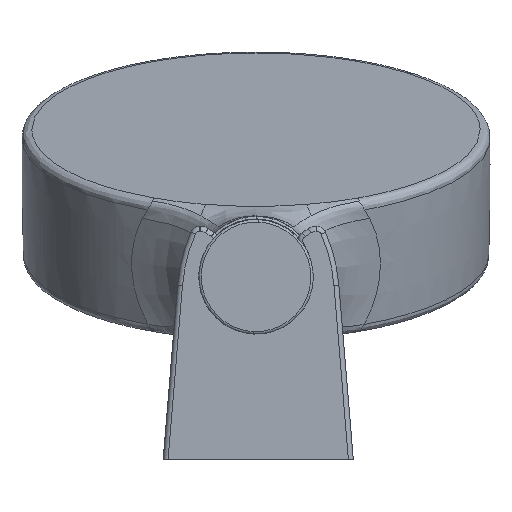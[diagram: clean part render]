
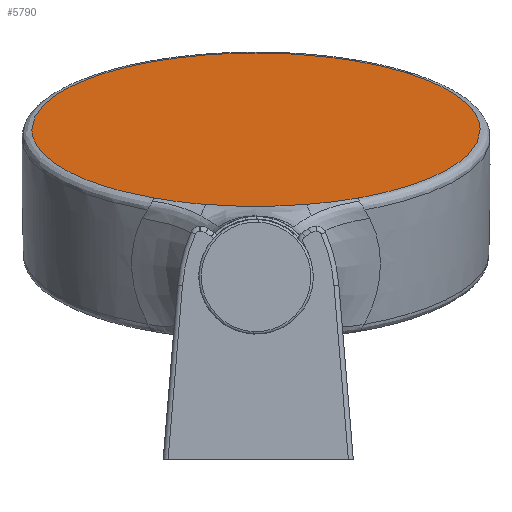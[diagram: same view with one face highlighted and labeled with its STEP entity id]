
A CAD part, front view. The second image highlights one B-rep face of the part: STEP entity #5790.
In plain terms, the highlighted planar face has unit normal (0, -0.342, 0.94).
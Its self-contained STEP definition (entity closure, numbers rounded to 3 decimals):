
#121 = B_SPLINE_CURVE_WITH_KNOTS ( 'NONE', 3,
 ( #4404, #8794, #8116, #1527, #7292, #2301 ),
 .UNSPECIFIED., .F., .F.,
 ( 4, 1, 1, 4 ),
 ( 0.75, 0.812, 0.875, 0.924 ),
 .UNSPECIFIED. ) ;
#306 = EDGE_CURVE ( 'NONE', #3258, #3849, #360, .T. ) ;
#317 = VERTEX_POINT ( 'NONE', #5326 ) ;
#360 = B_SPLINE_CURVE_WITH_KNOTS ( 'NONE', 3,
 ( #7375, #2413, #6011, #5255 ),
 .UNSPECIFIED., .F., .F.,
 ( 4, 4 ),
 ( 0., 1. ),
 .UNSPECIFIED. ) ;
#379 = CARTESIAN_POINT ( 'NONE',  ( -22.011, 160.346, 98.696 ) ) ;
#670 = CARTESIAN_POINT ( 'NONE',  ( -40.678, 159.979, 98.563 ) ) ;
#700 = CARTESIAN_POINT ( 'NONE',  ( -27.108, 159.524, 98.397 ) ) ;
#733 = CARTESIAN_POINT ( 'NONE',  ( -32.422, 159.247, 98.296 ) ) ;
#782 = CARTESIAN_POINT ( 'NONE',  ( 13.254, 207.598, 115.894 ) ) ;
#790 = CARTESIAN_POINT ( 'NONE',  ( -32.272, 159.247, 98.296 ) ) ;
#855 = CARTESIAN_POINT ( 'NONE',  ( -32.245, 244.757, 129.419 ) ) ;
#1253 = VERTEX_POINT ( 'NONE', #5741 ) ;
#1462 = CARTESIAN_POINT ( 'NONE',  ( -27.142, 159.52, 98.395 ) ) ;
#1479 = CARTESIAN_POINT ( 'NONE',  ( -14.38, 242.531, 128.609 ) ) ;
#1503 = DIRECTION ( 'NONE',  ( 0., 0.342, -0.94 ) ) ;
#1511 = VERTEX_POINT ( 'NONE', #855 ) ;
#1519 = CARTESIAN_POINT ( 'NONE',  ( -27.284, 159.505, 98.39 ) ) ;
#1527 = CARTESIAN_POINT ( 'NONE',  ( 1.472, 171.978, 102.93 ) ) ;
#1556 = ORIENTED_EDGE ( 'NONE', *, *, #306, .T. ) ;
#1744 = CARTESIAN_POINT ( 'NONE',  ( -18.307, 161.151, 98.989 ) ) ;
#1886 = EDGE_CURVE ( 'NONE', #1511, #3372, #6381, .T. ) ;
#2107 = CARTESIAN_POINT ( 'NONE',  ( -22.011, 160.346, 98.696 ) ) ;
#2141 = CARTESIAN_POINT ( 'NONE',  ( -27.122, 159.522, 98.396 ) ) ;
#2185 = CARTESIAN_POINT ( 'NONE',  ( -53.055, 163.983, 100.02 ) ) ;
#2231 = CARTESIAN_POINT ( 'NONE',  ( -32.599, 159.248, 98.296 ) ) ;
#2253 = EDGE_CURVE ( 'NONE', #7545, #317, #2480, .T. ) ;
#2281 = CARTESIAN_POINT ( 'NONE',  ( -65.963, 171.978, 102.93 ) ) ;
#2282 = CARTESIAN_POINT ( 'NONE',  ( 0.765, 233.022, 125.148 ) ) ;
#2301 = CARTESIAN_POINT ( 'NONE',  ( -11.435, 163.983, 100.02 ) ) ;
#2406 = CARTESIAN_POINT ( 'NONE',  ( -77.744, 202.002, 113.858 ) ) ;
#2413 = CARTESIAN_POINT ( 'NONE',  ( -49.699, 162.359, 99.429 ) ) ;
#2480 = B_SPLINE_CURVE_WITH_KNOTS ( 'NONE', 3,
 ( #3310, #1744, #6797, #7504 ),
 .UNSPECIFIED., .F., .F.,
 ( 4, 4 ),
 ( 0., 1. ),
 .UNSPECIFIED. ) ;
#2523 = AXIS2_PLACEMENT_3D ( 'NONE', #7961, #1503, #5088 ) ;
#2864 = CARTESIAN_POINT ( 'NONE',  ( -27.474, 159.486, 98.383 ) ) ;
#2915 = CARTESIAN_POINT ( 'NONE',  ( -57.239, 166.008, 100.757 ) ) ;
#2958 = CARTESIAN_POINT ( 'NONE',  ( -35.105, 159.327, 98.325 ) ) ;
#3093 = CARTESIAN_POINT ( 'NONE',  ( -50.11, 242.531, 128.609 ) ) ;
#3100 = B_SPLINE_CURVE_WITH_KNOTS ( 'NONE', 3,
 ( #2406, #6718, #3190, #3850, #3093, #8154, #8875 ),
 .UNSPECIFIED., .F., .F.,
 ( 4, 1, 1, 1, 4 ),
 ( 0.25, 0.313, 0.375, 0.437, 0.5 ),
 .UNSPECIFIED. ) ;
#3190 = CARTESIAN_POINT ( 'NONE',  ( -75.375, 218.79, 119.968 ) ) ;
#3258 = VERTEX_POINT ( 'NONE', #3442 ) ;
#3310 = CARTESIAN_POINT ( 'NONE',  ( -22.011, 160.346, 98.696 ) ) ;
#3372 = VERTEX_POINT ( 'NONE', #4079 ) ;
#3442 = CARTESIAN_POINT ( 'NONE',  ( -53.055, 163.983, 100.02 ) ) ;
#3575 = CARTESIAN_POINT ( 'NONE',  ( -32.953, 159.252, 98.298 ) ) ;
#3611 = CARTESIAN_POINT ( 'NONE',  ( -38.048, 159.567, 98.413 ) ) ;
#3639 = CARTESIAN_POINT ( 'NONE',  ( -32.346, 159.247, 98.296 ) ) ;
#3655 = ORIENTED_EDGE ( 'NONE', *, *, #7392, .F. ) ;
#3659 = CARTESIAN_POINT ( 'NONE',  ( -77.744, 196.407, 111.821 ) ) ;
#3673 = CARTESIAN_POINT ( 'NONE',  ( -32.296, 159.247, 98.296 ) ) ;
#3849 = VERTEX_POINT ( 'NONE', #5720 ) ;
#3850 = CARTESIAN_POINT ( 'NONE',  ( -65.255, 233.022, 125.148 ) ) ;
#4079 = CARTESIAN_POINT ( 'NONE',  ( 13.254, 202.002, 113.858 ) ) ;
#4326 = CARTESIAN_POINT ( 'NONE',  ( -26.29, 244.757, 129.419 ) ) ;
#4338 = CARTESIAN_POINT ( 'NONE',  ( -27.1, 159.525, 98.397 ) ) ;
#4404 = CARTESIAN_POINT ( 'NONE',  ( 13.254, 202.002, 113.858 ) ) ;
#4881 = ORIENTED_EDGE ( 'NONE', *, *, #7922, .T. ) ;
#5061 = CARTESIAN_POINT ( 'NONE',  ( -77.744, 202.002, 113.858 ) ) ;
#5088 = DIRECTION ( 'NONE',  ( 0., 0.94, 0.342 ) ) ;
#5255 = CARTESIAN_POINT ( 'NONE',  ( -42.479, 160.346, 98.696 ) ) ;
#5297 = FACE_OUTER_BOUND ( 'NONE', #9052, .T. ) ;
#5326 = CARTESIAN_POINT ( 'NONE',  ( -11.435, 163.983, 100.02 ) ) ;
#5720 = CARTESIAN_POINT ( 'NONE',  ( -42.479, 160.346, 98.696 ) ) ;
#5741 = CARTESIAN_POINT ( 'NONE',  ( -77.744, 202.002, 113.858 ) ) ;
#5773 = CARTESIAN_POINT ( 'NONE',  ( -25.829, 159.661, 98.447 ) ) ;
#5790 = ADVANCED_FACE ( 'NONE', ( #5297 ), #7737, .F. ) ;
#5821 = CARTESIAN_POINT ( 'NONE',  ( -32.245, 244.757, 129.419 ) ) ;
#5833 = CARTESIAN_POINT ( 'NONE',  ( -31.395, 159.247, 98.296 ) ) ;
#5885 = CARTESIAN_POINT ( 'NONE',  ( 10.885, 218.79, 119.968 ) ) ;
#6011 = CARTESIAN_POINT ( 'NONE',  ( -46.174, 161.147, 98.987 ) ) ;
#6059 = B_SPLINE_CURVE_WITH_KNOTS ( 'NONE', 3,
 ( #2185, #2915, #2281, #8712, #3659, #5061 ),
 .UNSPECIFIED., .F., .F.,
 ( 4, 1, 1, 4 ),
 ( 0.076, 0.125, 0.188, 0.25 ),
 .UNSPECIFIED. ) ;
#6381 = B_SPLINE_CURVE_WITH_KNOTS ( 'NONE', 3,
 ( #5821, #4326, #1479, #2282, #5885, #782, #8025 ),
 .UNSPECIFIED., .F., .F.,
 ( 4, 1, 1, 1, 4 ),
 ( 0.5, 0.563, 0.625, 0.687, 0.75 ),
 .UNSPECIFIED. ) ;
#6443 = CARTESIAN_POINT ( 'NONE',  ( -24.134, 159.934, 98.546 ) ) ;
#6480 = EDGE_CURVE ( 'NONE', #3258, #1253, #6059, .T. ) ;
#6502 = CARTESIAN_POINT ( 'NONE',  ( -27.852, 159.449, 98.37 ) ) ;
#6554 = B_SPLINE_CURVE_WITH_KNOTS ( 'NONE', 3,
 ( #7916, #670, #3611, #2958, #7945, #3575, #2231, #733, #3639, #3673, #790, #5833, #8634, #7979, #6502, #2864, #1519, #8692, #1462, #2141, #700, #4338, #5773, #6443, #2107 ),
 .UNSPECIFIED., .F., .F.,
 ( 4, 1, 1, 1, 1, 1, 1, 2, 2, 1, 1, 1, 1, 1, 1, 1, 2, 2, 4 ),
 ( 0., 0.25, 0.375, 0.438, 0.469, 0.484, 0.492, 0.496, 0.5, 0.625, 0.688, 0.719, 0.734, 0.742, 0.746, 0.748, 0.749, 0.75, 1. ),
 .UNSPECIFIED. ) ;
#6718 = CARTESIAN_POINT ( 'NONE',  ( -77.744, 207.598, 115.894 ) ) ;
#6796 = EDGE_CURVE ( 'NONE', #1253, #1511, #3100, .T. ) ;
#6797 = CARTESIAN_POINT ( 'NONE',  ( -14.781, 162.364, 99.43 ) ) ;
#7129 = ORIENTED_EDGE ( 'NONE', *, *, #6796, .F. ) ;
#7292 = CARTESIAN_POINT ( 'NONE',  ( -7.251, 166.008, 100.757 ) ) ;
#7375 = CARTESIAN_POINT ( 'NONE',  ( -53.055, 163.983, 100.02 ) ) ;
#7392 = EDGE_CURVE ( 'NONE', #3372, #317, #121, .T. ) ;
#7504 = CARTESIAN_POINT ( 'NONE',  ( -11.435, 163.983, 100.02 ) ) ;
#7545 = VERTEX_POINT ( 'NONE', #379 ) ;
#7737 = PLANE ( 'NONE',  #2523 ) ;
#7916 = CARTESIAN_POINT ( 'NONE',  ( -42.479, 160.346, 98.696 ) ) ;
#7922 = EDGE_CURVE ( 'NONE', #3849, #7545, #6554, .T. ) ;
#7923 = ORIENTED_EDGE ( 'NONE', *, *, #6480, .F. ) ;
#7945 = CARTESIAN_POINT ( 'NONE',  ( -33.665, 159.267, 98.303 ) ) ;
#7961 = CARTESIAN_POINT ( 'NONE',  ( -32.245, 26.908, 50.129 ) ) ;
#7979 = CARTESIAN_POINT ( 'NONE',  ( -28.608, 159.383, 98.346 ) ) ;
#8025 = CARTESIAN_POINT ( 'NONE',  ( 13.254, 202.002, 113.858 ) ) ;
#8027 = ORIENTED_EDGE ( 'NONE', *, *, #1886, .F. ) ;
#8116 = CARTESIAN_POINT ( 'NONE',  ( 10.885, 185.215, 107.748 ) ) ;
#8154 = CARTESIAN_POINT ( 'NONE',  ( -38.2, 244.757, 129.419 ) ) ;
#8634 = CARTESIAN_POINT ( 'NONE',  ( -30.114, 159.282, 98.309 ) ) ;
#8692 = CARTESIAN_POINT ( 'NONE',  ( -27.19, 159.515, 98.394 ) ) ;
#8712 = CARTESIAN_POINT ( 'NONE',  ( -75.375, 185.215, 107.748 ) ) ;
#8794 = CARTESIAN_POINT ( 'NONE',  ( 13.254, 196.407, 111.821 ) ) ;
#8875 = CARTESIAN_POINT ( 'NONE',  ( -32.245, 244.757, 129.419 ) ) ;
#9052 = EDGE_LOOP ( 'NONE', ( #7129, #7923, #1556, #4881, #9279, #3655, #8027 ) ) ;
#9279 = ORIENTED_EDGE ( 'NONE', *, *, #2253, .T. ) ;
